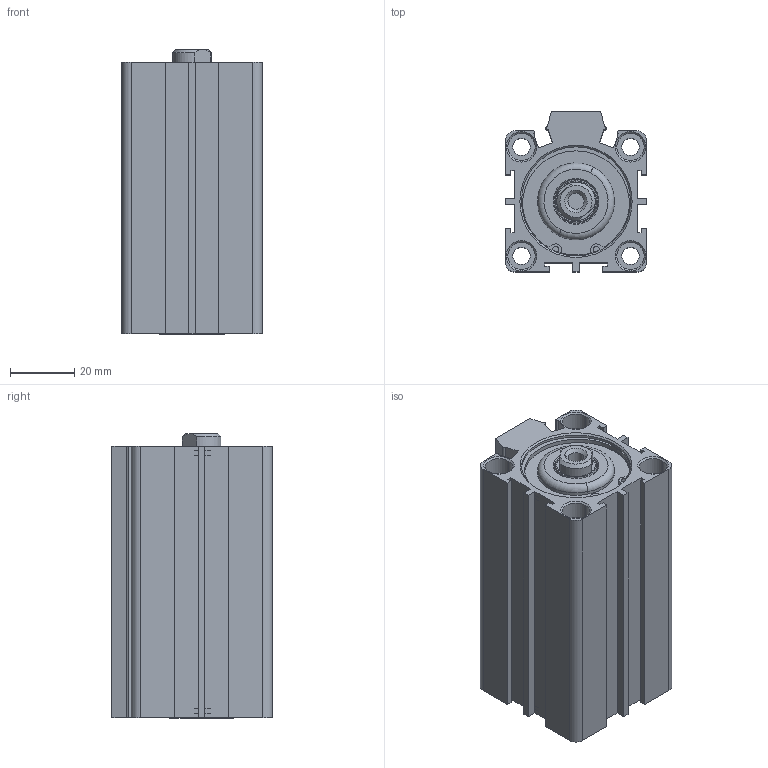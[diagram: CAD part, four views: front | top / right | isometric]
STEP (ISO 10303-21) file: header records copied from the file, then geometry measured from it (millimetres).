
FILE_DESCRIPTION (( 'STEP AP214' ), '1' );
FILE_NAME ('SDA_32_50_WEB.STEP', '2021-01-22T11:13:04', ( 'cagdas' ), ( '' ), 'SwSTEP 2.0', 'SolidWorks 2021', '' );
FILE_SCHEMA (( 'AUTOMOTIVE_DESIGN' ));
Length unit declared in the file: millimetre
Products named in the file (7): SDA32ARKKAPAK; SDA32_BORU_WEB; basic internal retaining ring_am_B27.7M - 3BM1-36; SDA_32_50_WEB; 20_MIL_WEB; SDA32ONKAPAKDINCPLASTIK; KASTAS-K52-12X16_5X3_6-4_8
Assembly tree (7 placements, depth 2):
  SDA_32_50_WEB
    SDA32_BORU_WEB
    SDA32ONKAPAKDINCPLASTIK
    KASTAS-K52-12X16_5X3_6-4_8
    SDA32ARKKAPAK
    20_MIL_WEB
    basic internal retaining ring_am_B27.7M - 3BM1-36  x2
Bounding box: 44 x 50 x 88.85 mm (x, y, z)
Volume: 89698.6 mm3; surface area: 49032.4 mm2
Topology: 7 solids, 7 shells, 467 faces, 1165 edges, 750 vertices
Faces by surface type: plane 178, cylinder 124, bspline 85, cone 76, torus 4
Entity records: 19570 total; most frequent: CARTESIAN_POINT 7109, ORIENTED_EDGE 2228, DIRECTION 1994, EDGE_CURVE 1114, VERTEX_POINT 716, AXIS2_PLACEMENT_3D 687, VECTOR 620, LINE 620
